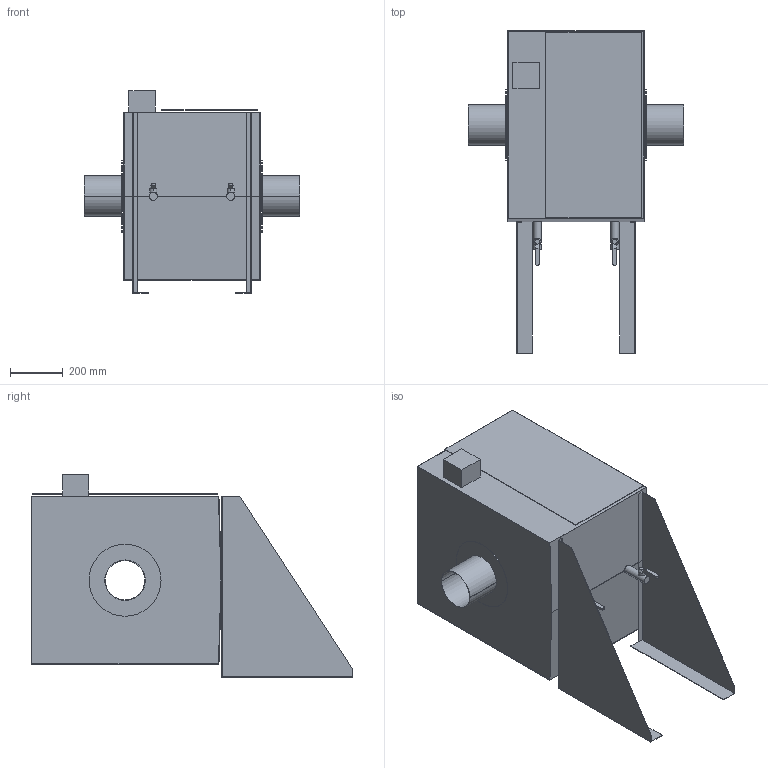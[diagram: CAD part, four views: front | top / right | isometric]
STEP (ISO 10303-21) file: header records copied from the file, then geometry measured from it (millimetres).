
FILE_DESCRIPTION((''),'2;1');
FILE_NAME('51474922','2020-04-27T14:21:37',('hrl'),('HUBER SE'),'CREO PARAMETRIC BY PTC INC, 2019224','CREO PARAMETRIC BY PTC INC, 2019224','');
FILE_SCHEMA(('AUTOMOTIVE_DESIGN { 1 0 10303 214 1 1 1 1 }'));
Length unit declared in the file: millimetre
Products named in the file (1): 51474922
Bounding box: 820 x 1225 x 772 mm (x, y, z)
Volume: 7515308.1 mm3; surface area: 6577266.5 mm2
Topology: 12 solids, 12 shells, 105 faces, 224 edges, 148 vertices
Faces by surface type: plane 75, cylinder 26, cone 4
Entity records: 3327 total; most frequent: DIRECTION 490, CARTESIAN_POINT 479, ORIENTED_EDGE 448, EDGE_CURVE 224, VECTOR 168, LINE 168, AXIS2_PLACEMENT_3D 161, VERTEX_POINT 148
